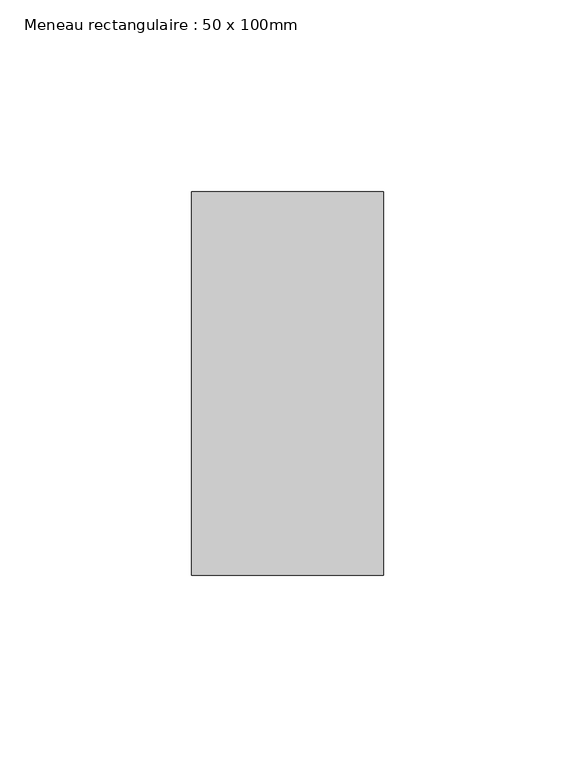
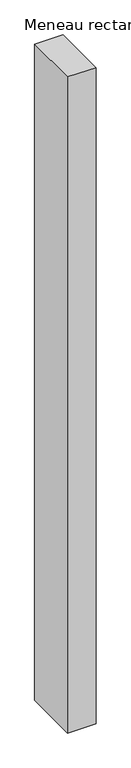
"""IFC4 building model written with IfcOpenShell, lengths in millimetres: member geometry, Meneau rectangulaire : 50 x 100mm."""

from ifc_helpers import new_model, si_unit, frame, origin, place, context, project, spatial, polyline, outline, extrude, source, transform, mapped, element, save


def meneau_rectangulaire_50_x_100mm_688607ec(model_context):
    return source(origin(), model_context, "Body", "SweptSolid", [
        extrude(outline(polyline([(25.0, 50.0), (25.0, -50.0), (-25.0, -50.0), (-25.0, 50.0), (25.0, 50.0)])), frame((0.0, 0.0, -1219.9999999), z_axis=(0.0, 0.0, 1.0), x_axis=(1.0, 0.0, 0.0)), (0.0, 0.0, 1.0), 1219.9999999),
    ])


if __name__ == "__main__":
    model = new_model("IFC4")
    model_context = context("Model", 3, world=origin())
    ifc_project = project(units=[si_unit("LENGTHUNIT", "METRE", prefix="MILLI")], contexts=[model_context])
    site = spatial("IfcSite", under=ifc_project)
    building = spatial("IfcBuilding", under=site)
    placement = place(None, origin())
    meneau_rectangulaire_50_x_100mm_shape = meneau_rectangulaire_50_x_100mm_688607ec(model_context)
    element("IfcMember", 1, ObjectType="Meneau rectangulaire : 50 x 100mm", at=placement, inside=building, context=model_context, shape_type="MappedRepresentation", body=[
        mapped(meneau_rectangulaire_50_x_100mm_shape, transform((0.0, 0.0, 0.0), x_axis=(1.0, 0.0, 0.0), y_axis=(0.0, 1.0, 0.0), z_axis=(0.0, 0.0, 1.0))),
    ])
    save(model, "model.ifc")
